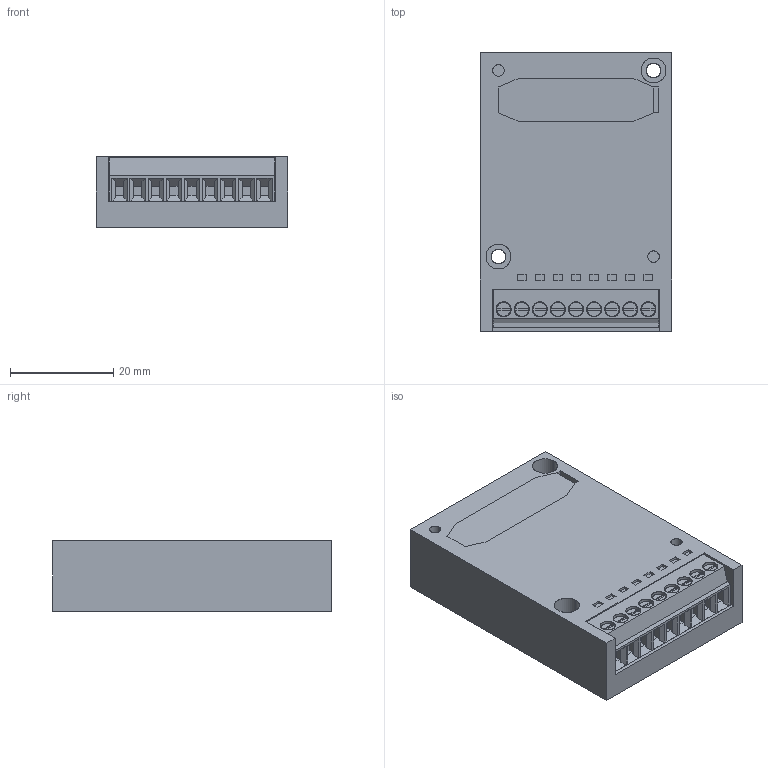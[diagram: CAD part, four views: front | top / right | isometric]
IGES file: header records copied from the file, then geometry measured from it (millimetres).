
Global section: preprocessor: SolidWorks 2008; organization: PanasonicElectricWorks; date: 090828.105107; units: millimetre
Bounding box: 37 x 53.8 x 13.6 mm (x, y, z)
Surface area: 9799.4 mm2 (no closed solid volume)
Topology: 0 solids, 0 shells, 317 faces, 2938 edges, 2938 vertices
Faces by surface type: bspline 265, revolution 52
